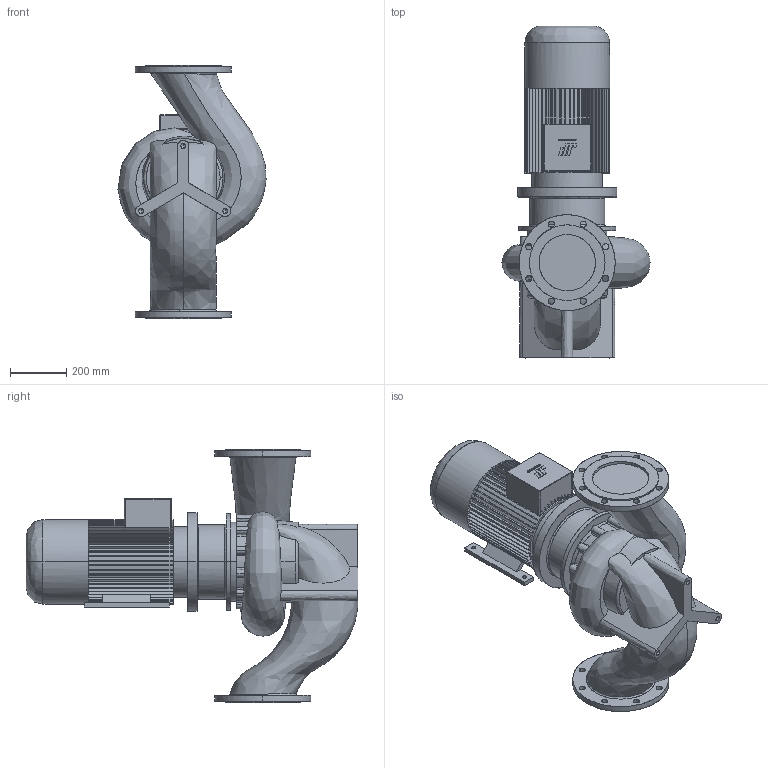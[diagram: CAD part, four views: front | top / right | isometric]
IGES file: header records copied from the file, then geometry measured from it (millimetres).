
Start section: CombiLine
Global section: file name: CLB_200-200_IEC160L_ND10.igs; native system:  By UGS Corp.; preprocessor: XPlus GENERIC/IGES 3.0; author: Stageplaats; organization: Johnson Pump Water B.V.; date: 20070718.091532; units: millimetre
Bounding box: 524.95 x 1176.5 x 900 mm (x, y, z)
Surface area: 2986626.6 mm2 (no closed solid volume)
Topology: 0 solids, 0 shells, 623 faces, 3782 edges, 3776 vertices
Faces by surface type: bspline 623
